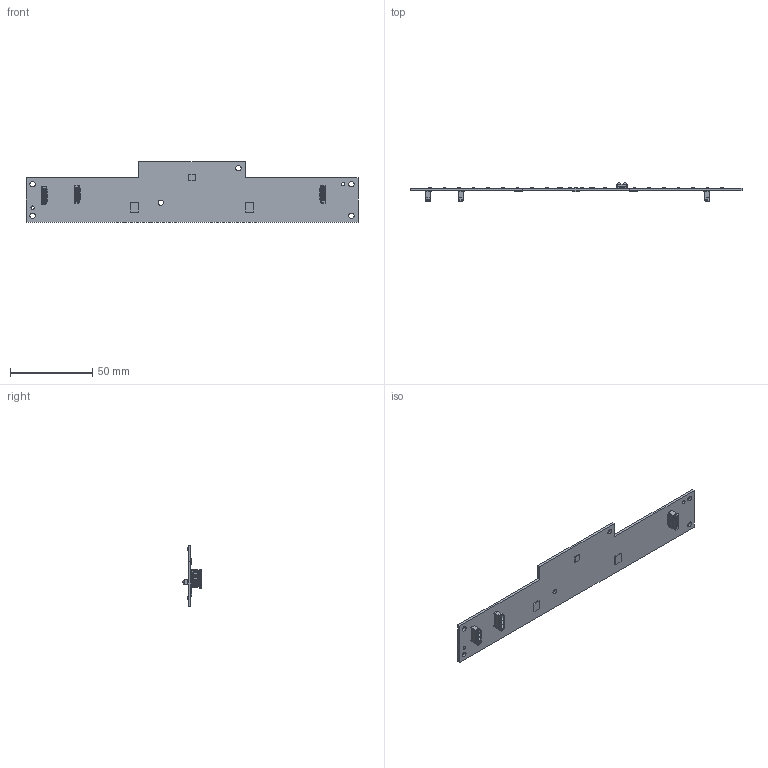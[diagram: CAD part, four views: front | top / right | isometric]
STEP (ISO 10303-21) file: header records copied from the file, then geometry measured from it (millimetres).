
FILE_DESCRIPTION((''),'2;1');
FILE_NAME('LED_PCB_ASSY_ASM','2020-08-11T',('G6003023'),(''),'PRO/ENGINEER BY PARAMETRIC TECHNOLOGY CORPORATION, 2013150','PRO/ENGINEER BY PARAMETRIC TECHNOLOGY CORPORATION, 2013150','');
FILE_SCHEMA(('CONFIG_CONTROL_DESIGN'));
Length unit declared in the file: millimetre
Products named in the file (8): LED_PCB; LED_EVERLIGHT_R6GHY5C_1_1_1; LP5024-DRIVER-IC; LP5036-DRIVER-IC; HS6108E-8PIN-VERTICAL; IR_RECEIVER; S-87214-0800; LED_PCB_ASSY_ASM
Assembly tree (37 placements, depth 2):
  LED_PCB_ASSY_ASM
    LED_PCB
    LED_EVERLIGHT_R6GHY5C_1_1_1  x26
    LP5024-DRIVER-IC
    LP5036-DRIVER-IC  x2
    HS6108E-8PIN-VERTICAL  x3
    IR_RECEIVER
    S-87214-0800  x3
Bounding box: 202 x 11.12 x 37 mm (x, y, z)
Volume: 10196.5 mm3; surface area: 15461.3 mm2
Topology: 37 solids, 61 shells, 3930 faces, 11146 edges, 7361 vertices
Faces by surface type: plane 3187, cylinder 721, sphere 22
Entity records: 38902 total; most frequent: CARTESIAN_POINT 6914, ORIENTED_EDGE 6772, DIRECTION 6316, EDGE_CURVE 3386, VECTOR 2958, LINE 2958, VERTEX_POINT 2219, AXIS2_PLACEMENT_3D 1679
